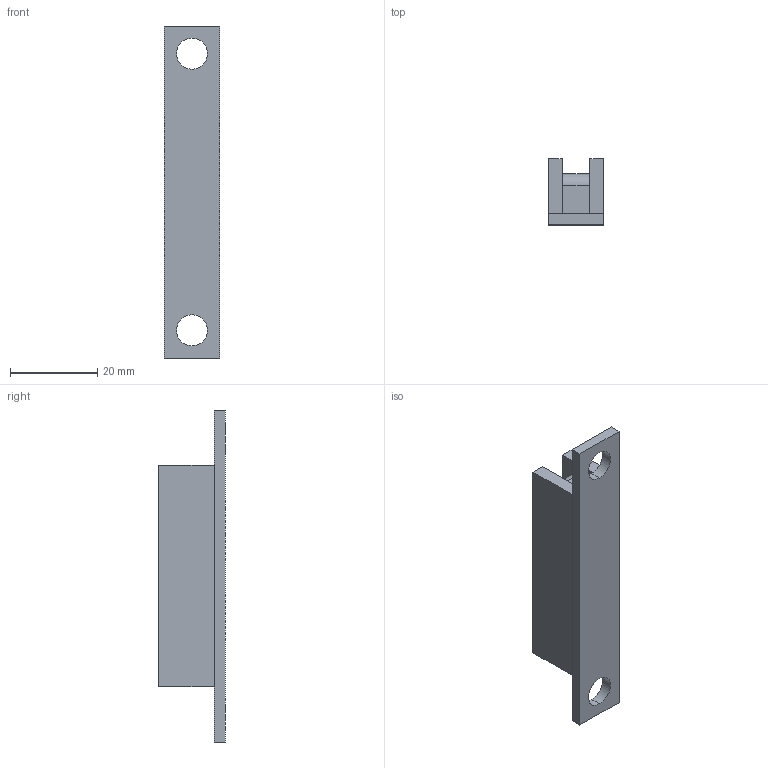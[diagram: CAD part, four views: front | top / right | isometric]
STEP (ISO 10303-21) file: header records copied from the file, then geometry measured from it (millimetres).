
FILE_DESCRIPTION (( 'STEP AP203' ), '1' );
FILE_NAME ('MX10354.STEP', '2018-09-11T20:43:25', ( '' ), ( '' ), 'SwSTEP 2.0', 'SolidWorks 2015', '' );
FILE_SCHEMA (( 'CONFIG_CONTROL_DESIGN' ));
Length unit declared in the file: inch
Products named in the file (1): MX10354
Bounding box: 12.7 x 15.24 x 76.2 mm (x, y, z)
Volume: 8718.7 mm3; surface area: 7910.2 mm2
Topology: 6 solids, 6 shells, 56 faces, 116 edges, 72 vertices
Faces by surface type: plane 48, cylinder 8
Entity records: 1525 total; most frequent: DIRECTION 246, CARTESIAN_POINT 245, ORIENTED_EDGE 232, EDGE_CURVE 116, LINE 100, VECTOR 100, AXIS2_PLACEMENT_3D 73, VERTEX_POINT 72
